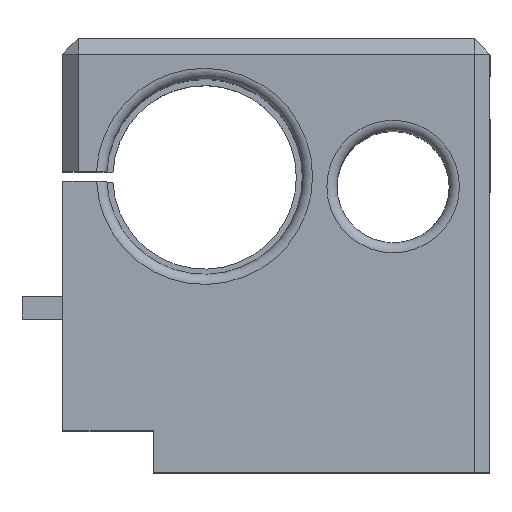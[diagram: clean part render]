
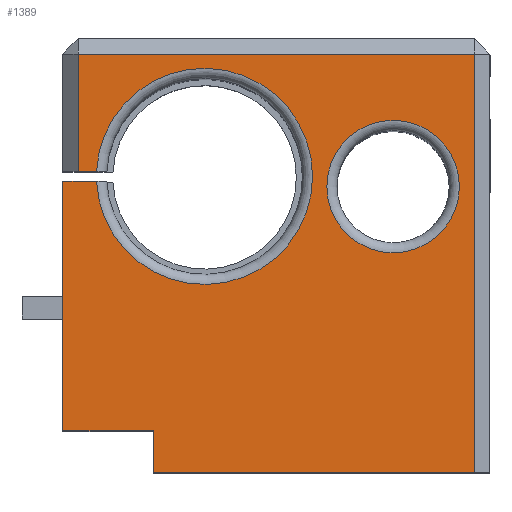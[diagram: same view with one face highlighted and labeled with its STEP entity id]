
A CAD part, top view. The second image highlights one B-rep face of the part: STEP entity #1389.
In plain terms, the highlighted planar face has unit normal (0, 0, 1).
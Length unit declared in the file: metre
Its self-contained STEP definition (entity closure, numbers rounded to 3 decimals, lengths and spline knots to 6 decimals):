
#85=CIRCLE('',#1518,0.0065);
#86=CIRCLE('',#1519,0.0106);
#292=ORIENTED_EDGE('',*,*,#637,.T.);
#293=ORIENTED_EDGE('',*,*,#618,.T.);
#294=ORIENTED_EDGE('',*,*,#638,.T.);
#295=ORIENTED_EDGE('',*,*,#538,.T.);
#296=ORIENTED_EDGE('',*,*,#615,.T.);
#297=ORIENTED_EDGE('',*,*,#598,.T.);
#298=ORIENTED_EDGE('',*,*,#601,.T.);
#299=ORIENTED_EDGE('',*,*,#555,.F.);
#300=ORIENTED_EDGE('',*,*,#639,.T.);
#301=ORIENTED_EDGE('',*,*,#640,.T.);
#302=ORIENTED_EDGE('',*,*,#641,.T.);
#538=EDGE_CURVE('',#735,#736,#854,.T.);
#555=EDGE_CURVE('',#751,#752,#869,.T.);
#598=EDGE_CURVE('',#783,#784,#898,.T.);
#601=EDGE_CURVE('',#784,#752,#901,.T.);
#615=EDGE_CURVE('',#736,#783,#911,.T.);
#618=EDGE_CURVE('',#797,#796,#913,.T.);
#637=EDGE_CURVE('',#810,#810,#85,.F.);
#638=EDGE_CURVE('',#796,#735,#86,.F.);
#639=EDGE_CURVE('',#751,#811,#931,.T.);
#640=EDGE_CURVE('',#811,#812,#932,.T.);
#641=EDGE_CURVE('',#812,#797,#933,.T.);
#735=VERTEX_POINT('',#2091);
#736=VERTEX_POINT('',#2092);
#751=VERTEX_POINT('',#2133);
#752=VERTEX_POINT('',#2135);
#783=VERTEX_POINT('',#2229);
#784=VERTEX_POINT('',#2230);
#796=VERTEX_POINT('',#2268);
#797=VERTEX_POINT('',#2270);
#810=VERTEX_POINT('',#2313);
#811=VERTEX_POINT('',#2316);
#812=VERTEX_POINT('',#2318);
#854=LINE('',#2090,#975);
#869=LINE('',#2134,#990);
#898=LINE('',#2228,#1019);
#901=LINE('',#2234,#1022);
#911=LINE('',#2258,#1032);
#913=LINE('',#2269,#1034);
#931=LINE('',#2315,#1052);
#932=LINE('',#2317,#1053);
#933=LINE('',#2319,#1054);
#975=VECTOR('',#1647,1.);
#990=VECTOR('',#1666,1.);
#1019=VECTOR('',#1763,1.);
#1022=VECTOR('',#1768,1.);
#1032=VECTOR('',#1788,1.);
#1034=VECTOR('',#1792,1.);
#1052=VECTOR('',#1828,1.);
#1053=VECTOR('',#1829,1.);
#1054=VECTOR('',#1830,1.);
#1132=EDGE_LOOP('',(#292));
#1133=EDGE_LOOP('',(#293,#294,#295,#296,#297,#298,#299,#300,#301,#302));
#1241=FACE_BOUND('',#1132,.T.);
#1242=FACE_BOUND('',#1133,.T.);
#1332=PLANE('',#1517);
#1389=ADVANCED_FACE('',(#1241,#1242),#1332,.T.);
#1517=AXIS2_PLACEMENT_3D('',#2311,#1822,#1823);
#1518=AXIS2_PLACEMENT_3D('',#2312,#1824,#1825);
#1519=AXIS2_PLACEMENT_3D('',#2314,#1826,#1827);
#1647=DIRECTION('',(-1.,0.,0.));
#1666=DIRECTION('',(-1.,0.,0.));
#1763=DIRECTION('',(1.,0.,0.));
#1768=DIRECTION('',(0.,-1.,0.));
#1788=DIRECTION('',(0.,-1.,0.));
#1792=DIRECTION('',(1.,0.,0.));
#1822=DIRECTION('',(0.,0.,1.));
#1823=DIRECTION('',(1.,0.,0.));
#1824=DIRECTION('',(0.,0.,1.));
#1825=DIRECTION('',(1.,0.,0.));
#1826=DIRECTION('',(0.,0.,1.));
#1827=DIRECTION('',(1.,0.,0.));
#1828=DIRECTION('',(0.,1.,0.));
#1829=DIRECTION('',(-1.,0.,0.));
#1830=DIRECTION('',(0.,-1.,0.));
#2090=CARTESIAN_POINT('',(-0.033982,0.0285,0.065));
#2091=CARTESIAN_POINT('',(-0.038588,0.0285,0.065));
#2092=CARTESIAN_POINT('',(-0.0419,0.0285,0.065));
#2133=CARTESIAN_POINT('',(-0.0015,0.,0.065));
#2134=CARTESIAN_POINT('',(-0.0369,0.,0.065));
#2135=CARTESIAN_POINT('',(-0.033,0.,0.065));
#2228=CARTESIAN_POINT('',(-0.028,0.00405,0.065));
#2229=CARTESIAN_POINT('',(-0.0419,0.00405,0.065));
#2230=CARTESIAN_POINT('',(-0.033,0.00405,0.065));
#2234=CARTESIAN_POINT('',(-0.033,0.,0.065));
#2258=CARTESIAN_POINT('',(-0.0419,0.,0.065));
#2268=CARTESIAN_POINT('',(-0.038588,0.0295,0.065));
#2269=CARTESIAN_POINT('',(-0.0369,0.0295,0.065));
#2270=CARTESIAN_POINT('',(-0.0404,0.0295,0.065));
#2311=CARTESIAN_POINT('',(-0.0369,0.,0.065));
#2312=CARTESIAN_POINT('',(-0.0095,0.028,0.065));
#2313=CARTESIAN_POINT('',(-0.003,0.028,0.065));
#2314=CARTESIAN_POINT('',(-0.028,0.029,0.065));
#2315=CARTESIAN_POINT('',(-0.0015,0.,0.065));
#2316=CARTESIAN_POINT('',(-0.0015,0.041,0.065));
#2317=CARTESIAN_POINT('',(-0.0369,0.041,0.065));
#2318=CARTESIAN_POINT('',(-0.0404,0.041,0.065));
#2319=CARTESIAN_POINT('',(-0.0404,0.,0.065));
